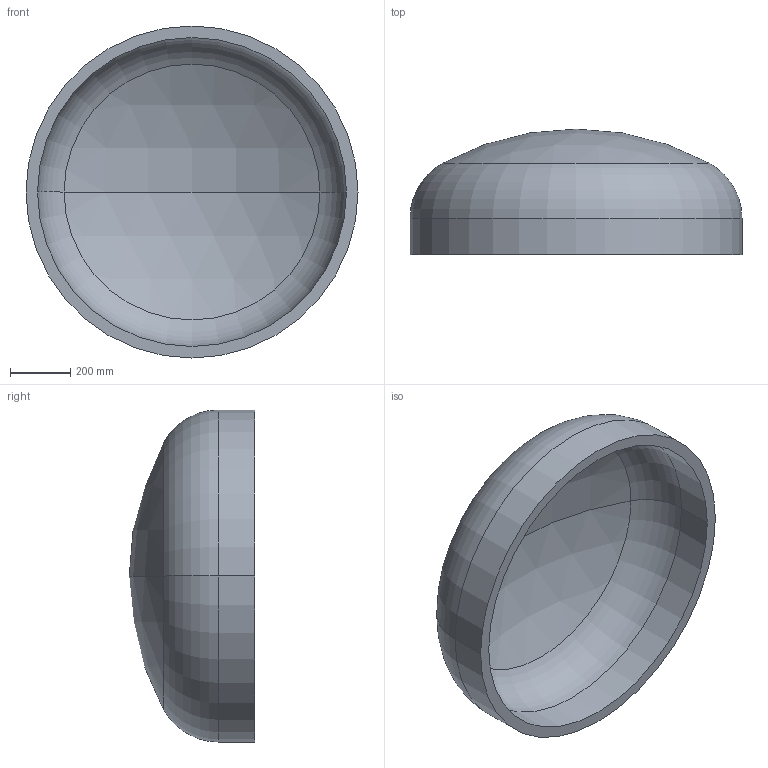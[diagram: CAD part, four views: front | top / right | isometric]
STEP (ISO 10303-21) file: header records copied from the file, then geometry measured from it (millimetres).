
FILE_DESCRIPTION (( 'STEP AP203' ), '1' );
FILE_NAME ('DIN 28013 Korbbogenform_-_Boden DIN 28013 - 1100 x 120 - I - s=38.step', '2016-07-01T09:07:08', ( '' ), ( '' ), 'SwSTEP 2.0', 'SolidWorks 2013', '' );
FILE_SCHEMA (( 'CONFIG_CONTROL_DESIGN' ));
Length unit declared in the file: millimetre
Products named in the file (1): DIN 28013 Korbbogenform_-_Boden DIN 28013 - 1100 x 120 - I - s=38
Bounding box: 1100 x 415.8 x 1100 mm (x, y, z)
Volume: 63064455.5 mm3; surface area: 3448987.4 mm2
Topology: 1 solids, 1 shells, 13 faces, 24 edges, 14 vertices
Faces by surface type: torus 4, cylinder 4, sphere 4, plane 1
Entity records: 407 total; most frequent: DIRECTION 72, CARTESIAN_POINT 52, ORIENTED_EDGE 48, AXIS2_PLACEMENT_3D 34, EDGE_CURVE 24, CIRCLE 20, EDGE_LOOP 14, VERTEX_POINT 14
